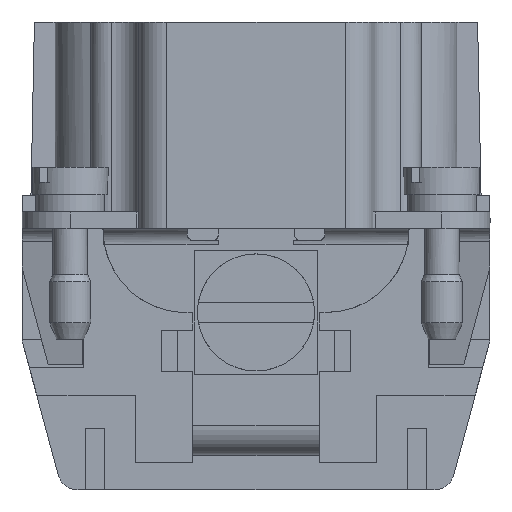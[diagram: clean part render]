
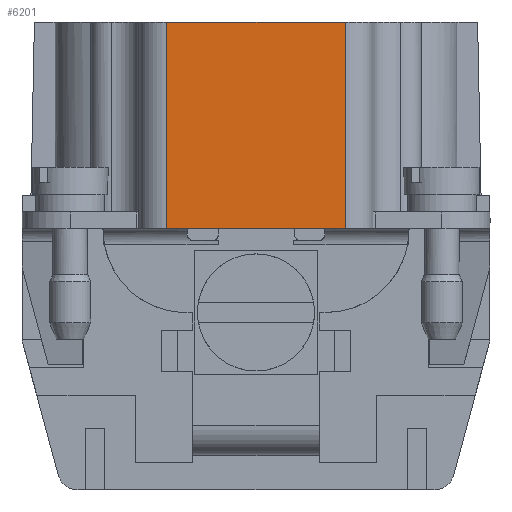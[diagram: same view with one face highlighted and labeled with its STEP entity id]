
A CAD part, left-side view. The second image highlights one B-rep face of the part: STEP entity #6201.
In plain terms, the highlighted planar face has unit normal (-1, 0, 0).
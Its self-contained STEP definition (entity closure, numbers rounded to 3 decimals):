
#6201=ADVANCED_FACE('',(#7297),#6845,.T.);
#6845=PLANE('',#18283);
#7297=FACE_OUTER_BOUND('',#7951,.T.);
#7951=EDGE_LOOP('',(#9641,#9642,#9643,#9644));
#9641=ORIENTED_EDGE('',*,*,#14304,.F.);
#9642=ORIENTED_EDGE('',*,*,#14305,.T.);
#9643=ORIENTED_EDGE('',*,*,#14301,.T.);
#9644=ORIENTED_EDGE('',*,*,#14306,.F.);
#12859=VERTEX_POINT('',#24130);
#12860=VERTEX_POINT('',#24131);
#12861=VERTEX_POINT('',#24136);
#12862=VERTEX_POINT('',#24137);
#14301=EDGE_CURVE('',#12859,#12860,#15944,.T.);
#14304=EDGE_CURVE('',#12861,#12862,#15945,.T.);
#14305=EDGE_CURVE('',#12861,#12859,#15946,.T.);
#14306=EDGE_CURVE('',#12862,#12860,#15947,.T.);
#15944=LINE('',#24129,#17180);
#15945=LINE('',#24135,#17181);
#15946=LINE('',#24138,#17182);
#15947=LINE('',#24139,#17183);
#17180=VECTOR('',#20198,1.);
#17181=VECTOR('',#20205,1.);
#17182=VECTOR('',#20206,1.);
#17183=VECTOR('',#20207,1.);
#18283=AXIS2_PLACEMENT_3D('',#24140,#20208,#20209);
#20198=DIRECTION('',(0.,0.,1.));
#20205=DIRECTION('',(0.,0.,1.));
#20206=DIRECTION('',(0.,-1.,0.));
#20207=DIRECTION('',(0.,-1.,0.));
#20208=DIRECTION('',(-1.,0.,0.));
#20209=DIRECTION('',(0.,-1.,0.));
#24129=CARTESIAN_POINT('',(-41.,-6.5,0.));
#24130=CARTESIAN_POINT('',(-41.,-6.5,0.));
#24131=CARTESIAN_POINT('',(-41.,-6.5,15.));
#24135=CARTESIAN_POINT('',(-41.,6.5,0.));
#24136=CARTESIAN_POINT('',(-41.,6.5,0.));
#24137=CARTESIAN_POINT('',(-41.,6.5,15.));
#24138=CARTESIAN_POINT('',(-41.,6.5,0.));
#24139=CARTESIAN_POINT('',(-41.,6.5,15.));
#24140=CARTESIAN_POINT('',(-41.,-6.7,15.2));
